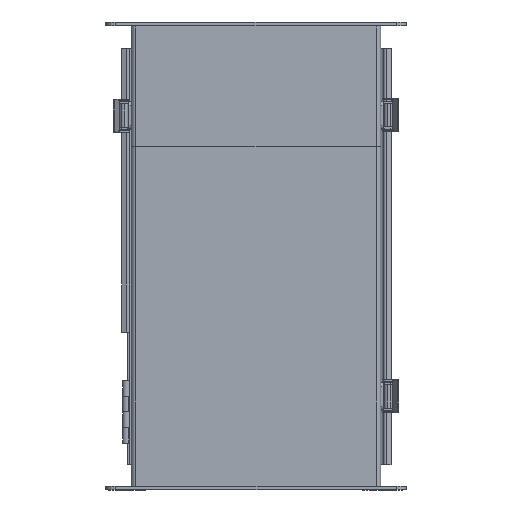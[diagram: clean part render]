
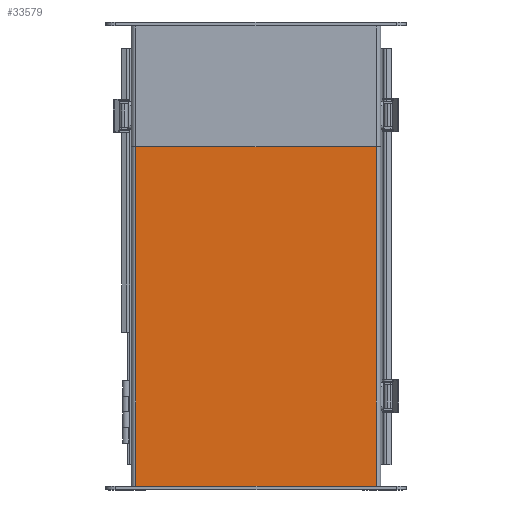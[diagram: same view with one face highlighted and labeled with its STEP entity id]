
A CAD part, front view. The second image highlights one B-rep face of the part: STEP entity #33579.
In plain terms, the highlighted planar face has unit normal (0, -1, 0).
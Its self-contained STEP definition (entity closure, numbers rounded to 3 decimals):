
#319 = CARTESIAN_POINT ( 'NONE',  ( -4., 0., 5.435 ) ) ;
#663 = CARTESIAN_POINT ( 'NONE',  ( 3.848, 0., 5.435 ) ) ;
#674 = DIRECTION ( 'NONE',  ( 0., 0., -1. ) ) ;
#714 = DIRECTION ( 'NONE',  ( 0., 0., -1. ) ) ;
#717 = CARTESIAN_POINT ( 'NONE',  ( -3.848, 0., 5.435 ) ) ;
#948 = DIRECTION ( 'NONE',  ( 1., 0., 0. ) ) ;
#1306 = CARTESIAN_POINT ( 'NONE',  ( -4., 0., -5.435 ) ) ;
#1594 = DIRECTION ( 'NONE',  ( 1., 0., 0. ) ) ;
#6427 = EDGE_CURVE ( 'NONE', #32168, #22577, #9170, .T. ) ;
#6457 = EDGE_CURVE ( 'NONE', #22399, #32168, #9186, .T. ) ;
#6462 = EDGE_CURVE ( 'NONE', #22554, #22577, #9182, .T. ) ;
#6551 = EDGE_CURVE ( 'NONE', #22399, #22554, #9858, .T. ) ;
#9105 = VECTOR ( 'NONE', #1594, 39.37 ) ;
#9159 = VECTOR ( 'NONE', #674, 39.37 ) ;
#9170 = LINE ( 'NONE', #663, #9159 ) ;
#9182 = LINE ( 'NONE', #1306, #9105 ) ;
#9186 = LINE ( 'NONE', #319, #9193 ) ;
#9193 = VECTOR ( 'NONE', #948, 39.37 ) ;
#9846 = VECTOR ( 'NONE', #714, 39.37 ) ;
#9858 = LINE ( 'NONE', #717, #9846 ) ;
#10532 = EDGE_LOOP ( 'NONE', ( #23504, #23506, #23505, #23508 ) ) ;
#12898 = CARTESIAN_POINT ( 'NONE',  ( -3.848, 0., 5.435 ) ) ;
#12919 = CARTESIAN_POINT ( 'NONE',  ( 3.848, 0., -5.435 ) ) ;
#12927 = CARTESIAN_POINT ( 'NONE',  ( -3.848, 0., -5.435 ) ) ;
#14493 = FACE_OUTER_BOUND ( 'NONE', #10532, .T. ) ;
#15498 = AXIS2_PLACEMENT_3D ( 'NONE', #19999, #20373, #19659 ) ;
#19659 = DIRECTION ( 'NONE',  ( -1., 0., 0. ) ) ;
#19999 = CARTESIAN_POINT ( 'NONE',  ( -4., 0., 5.435 ) ) ;
#20373 = DIRECTION ( 'NONE',  ( 0., 1., 0. ) ) ;
#20424 = PLANE ( 'NONE',  #15498 ) ;
#22399 = VERTEX_POINT ( 'NONE', #12898 ) ;
#22554 = VERTEX_POINT ( 'NONE', #12927 ) ;
#22577 = VERTEX_POINT ( 'NONE', #12919 ) ;
#23504 = ORIENTED_EDGE ( 'NONE', *, *, #6462, .T. ) ;
#23505 = ORIENTED_EDGE ( 'NONE', *, *, #6457, .F. ) ;
#23506 = ORIENTED_EDGE ( 'NONE', *, *, #6427, .F. ) ;
#23508 = ORIENTED_EDGE ( 'NONE', *, *, #6551, .T. ) ;
#29145 = CARTESIAN_POINT ( 'NONE',  ( 3.848, 0., 5.435 ) ) ;
#32168 = VERTEX_POINT ( 'NONE', #29145 ) ;
#33579 = ADVANCED_FACE ( 'NONE', ( #14493 ), #20424, .F. ) ;
